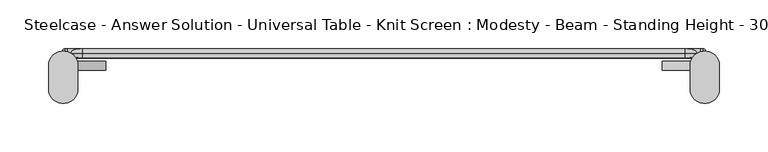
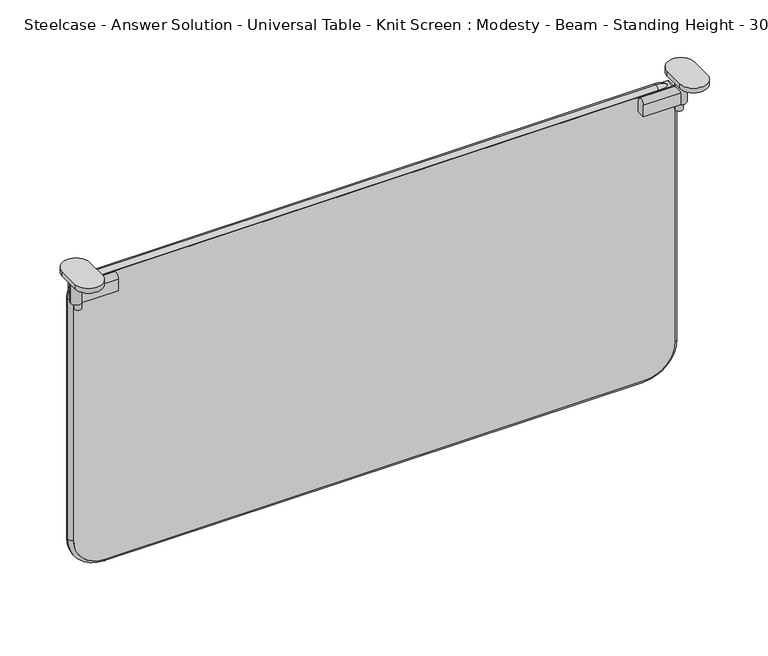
"""IFC4 building model written with IfcOpenShell, lengths in millimetres: furniture geometry, Steelcase - Answer Solution - Universal Table - Knit Screen : Modesty - Beam - Standing Height - 30in."""

import ifcopenshell
import ifcopenshell.guid

model = None  # the IFC model being written
_history = None  # IfcOwnerHistory: only IFC2X3 demands one
_inside = {}  # id of a spatial element -> (the spatial element, [elements in it])
_under = {}  # id of a project, library or spatial element -> (it, [spatial elements below it])
_declared = {}  # id of a project -> (the project, [libraries it declares])
_typed = {}  # id of a type object -> (the type object, [elements of that type])
_made_of = {}  # id of a material, layer set ... -> (it, [elements and type objects made of it])


def new_model(schema):
    """Start an empty IFC model of exactly this schema.

    Asked for "IFC4X3", IfcOpenShell would pick the latest addendum, in which some entities
    have other attributes; the version numbers below select the first issue.
    IFC2X3 requires an IfcOwnerHistory on every rooted entity: one is made here for all.
    """
    global model, _history
    if schema == "IFC4X3":
        model = ifcopenshell.file(schema_version=(4, 3, 0, 0))
    else:
        model = ifcopenshell.file(schema=schema)
    _inside.clear()
    _under.clear()
    _declared.clear()
    _typed.clear()
    _made_of.clear()
    _history = None
    if model.schema == "IFC2X3":
        org = make("IfcOrganization", Name="unknown")
        user = make(
            "IfcPersonAndOrganization",
            ThePerson=make("IfcPerson", FamilyName="unknown"),
            TheOrganization=org,
        )
        app = make(
            "IfcApplication",
            ApplicationDeveloper=org,
            Version="unknown",
            ApplicationFullName="unknown",
            ApplicationIdentifier="unknown",
        )
        _history = make(
            "IfcOwnerHistory",
            OwningUser=user,
            OwningApplication=app,
            ChangeAction="ADDED",
            CreationDate=0,
        )
    return model


def make(cls, **values):
    """One entity of the class cls with the attributes given. An attribute that is None is left unset."""
    return model.create_entity(
        cls, **{name: value for name, value in values.items() if value is not None}
    )


def rooted(cls, **values):
    """An entity with a GlobalId (a new one), such as an element, a storey or a relation."""
    return make(cls, GlobalId=ifcopenshell.guid.new(), OwnerHistory=_history, **values)


def si_unit(unit_type, name, prefix=None):
    """IfcSIUnit, for example si_unit("LENGTHUNIT", "METRE", prefix="MILLI")."""
    return make("IfcSIUnit", UnitType=unit_type, Prefix=prefix, Name=name)


def assignment(units):
    """IfcUnitAssignment: the units of a project."""
    return None if units is None else make("IfcUnitAssignment", Units=units)


def point(xyz):
    """IfcCartesianPoint."""
    return None if xyz is None else make("IfcCartesianPoint", Coordinates=xyz)


def direction(xyz):
    """IfcDirection."""
    return None if xyz is None else make("IfcDirection", DirectionRatios=xyz)


def frame(location, z_axis=None, x_axis=None):
    """IfcAxis2Placement3D, a coordinate frame: its origin and axes. An axis left out is left unset."""
    return make(
        "IfcAxis2Placement3D",
        Location=point(location),
        Axis=direction(z_axis),
        RefDirection=direction(x_axis),
    )


def frame_2d(location, x_axis=None):
    """IfcAxis2Placement2D, a coordinate frame in the plane: its origin and x axis."""
    return make(
        "IfcAxis2Placement2D", Location=point(location), RefDirection=direction(x_axis)
    )


def origin():
    """The frame at (0, 0, 0) with its axes left unset."""
    return frame((0.0, 0.0, 0.0))


def place(relative_to, where):
    """IfcLocalPlacement: puts the frame where relative to a parent placement (None: the world)."""
    return make(
        "IfcLocalPlacement", PlacementRelTo=relative_to, RelativePlacement=where
    )


def context(
    kind, dimensions, precision=None, world=None, true_north=None, identifier=None
):
    """IfcGeometricRepresentationContext, for example the 3D "Model" context."""
    return make(
        "IfcGeometricRepresentationContext",
        ContextIdentifier=identifier,
        ContextType=kind,
        CoordinateSpaceDimension=dimensions,
        Precision=precision,
        WorldCoordinateSystem=world,
        TrueNorth=true_north,
    )


def project(units=None, contexts=None):
    """IfcProject with its units and contexts."""
    return rooted(
        "IfcProject",
        Name="project",
        RepresentationContexts=contexts,
        UnitsInContext=assignment(units),
    )


def spatial(cls, under=None, at=None, **own):
    """A site, building, storey or space (cls), placed at a placement, below another one or the project."""
    s = rooted(cls, ObjectPlacement=at, **own)
    if under is not None:
        _under.setdefault(under.id(), (under, []))[1].append(s)
    return s


def polyline(points):
    """IfcPolyline through the points."""
    return make("IfcPolyline", Points=[point(p) for p in points])


def circle_curve(where, radius):
    """IfcCircle in the frame where."""
    return make("IfcCircle", Position=where, Radius=radius)


def ellipse_curve(where, semi_axis1, semi_axis2):
    """IfcEllipse in the frame where."""
    return make(
        "IfcEllipse", Position=where, SemiAxis1=semi_axis1, SemiAxis2=semi_axis2
    )


def trimmed(basis, trim1, trim2, sense, master):
    """IfcTrimmedCurve: the piece of a basis curve between two trims."""
    return make(
        "IfcTrimmedCurve",
        BasisCurve=basis,
        Trim1=trim1,
        Trim2=trim2,
        SenseAgreement=sense,
        MasterRepresentation=master,
    )


def segment(curve, same_sense, transition):
    """IfcCompositeCurveSegment."""
    return make(
        "IfcCompositeCurveSegment",
        Transition=transition,
        SameSense=same_sense,
        ParentCurve=curve,
    )


def composite_curve(segments, self_intersect=None):
    """IfcCompositeCurve: segments joined end to end."""
    return make("IfcCompositeCurve", Segments=segments, SelfIntersect=self_intersect)


def outline(outer, holes=None, kind="AREA"):
    """IfcArbitraryClosedProfileDef: a profile drawn as a closed curve; with holes, ...WithVoids."""
    if holes is None:
        return make("IfcArbitraryClosedProfileDef", ProfileType=kind, OuterCurve=outer)
    return make(
        "IfcArbitraryProfileDefWithVoids",
        ProfileType=kind,
        OuterCurve=outer,
        InnerCurves=holes,
    )


def extrude(swept, where, along, depth):
    """IfcExtrudedAreaSolid: the profile swept, set in the frame where, extruded along a direction by depth."""
    return make(
        "IfcExtrudedAreaSolid",
        SweptArea=swept,
        Position=where,
        ExtrudedDirection=direction(along),
        Depth=depth,
    )


def shape(context_of_items, identifier, shape_type, items):
    """IfcShapeRepresentation: the items that make up one representation, for example the "Body"."""
    return make(
        "IfcShapeRepresentation",
        ContextOfItems=context_of_items,
        RepresentationIdentifier=identifier,
        RepresentationType=shape_type,
        Items=items,
    )


def source(mapping_origin, context_of_items, identifier, shape_type, items):
    """IfcRepresentationMap: a shape defined once, which mapped items show again and again."""
    return make(
        "IfcRepresentationMap",
        MappingOrigin=mapping_origin,
        MappedRepresentation=shape(context_of_items, identifier, shape_type, items),
    )


def transform(
    local_origin,
    x_axis=None,
    y_axis=None,
    z_axis=None,
    scale=None,
    scale2=None,
    scale3=None,
    uniform=True,
):
    """IfcCartesianTransformationOperator3D, or its non-uniform kind. x_axis, y_axis, z_axis: its Axis1, 2, 3."""
    if uniform:
        return make(
            "IfcCartesianTransformationOperator3D",
            Axis1=direction(x_axis),
            Axis2=direction(y_axis),
            LocalOrigin=point(local_origin),
            Scale=scale,
            Axis3=direction(z_axis),
        )
    return make(
        "IfcCartesianTransformationOperator3DnonUniform",
        Axis1=direction(x_axis),
        Axis2=direction(y_axis),
        LocalOrigin=point(local_origin),
        Scale=scale,
        Axis3=direction(z_axis),
        Scale2=scale2,
        Scale3=scale3,
    )


def mapped(mapping_source, mapping_target):
    """IfcMappedItem: shows the shape of a source again, moved by a transform."""
    return make(
        "IfcMappedItem", MappingSource=mapping_source, MappingTarget=mapping_target
    )


def made_of(thing, what):
    """Note that an element or type object is made of a material, layer set ...; save() writes the relation."""
    if what is not None:
        _made_of.setdefault(what.id(), (what, []))[1].append(thing)
    return thing


def element(
    cls,
    number,
    at=None,
    inside=None,
    cuts=None,
    type_object=None,
    material=None,
    context=None,
    identifier="Body",
    shape_type=None,
    held_by="IfcProductDefinitionShape",
    body=None,
    shapes=None,
    **own,
):
    """One element of the class cls, such as IfcWall. Its Tag is "e" and its number.

    at: its placement. inside: the storey or other place that contains it. cuts: it is an
    opening in that element (IfcRelVoidsElement). A single representation is given by context,
    identifier, shape_type and body (its items); several are given by shapes. held_by: the class
    of the entity that holds the representations. save() writes the other relations.
    """
    e = rooted(cls, Tag="e%d" % number, ObjectPlacement=at, **own)
    if body is not None:
        shapes = [shape(context, identifier, shape_type, body)]
    if shapes is not None:
        e.Representation = make(held_by, Representations=shapes)
    if inside is not None:
        _inside.setdefault(inside.id(), (inside, []))[1].append(e)
    if cuts is not None:
        rooted(
            "IfcRelVoidsElement", RelatingBuildingElement=cuts, RelatedOpeningElement=e
        )
    if type_object is not None:
        _typed.setdefault(type_object.id(), (type_object, []))[1].append(e)
    return made_of(e, material)


def aggregate(whole, parts):
    """IfcRelAggregates: a whole, such as a stair, and the parts it consists of."""
    return rooted("IfcRelAggregates", RelatingObject=whole, RelatedObjects=parts)


def save(model, path):
    """Write the relations noted so far, then the file.

    IfcRelAggregates (storeys below a building ...), IfcRelContainedInSpatialStructure (elements
    in a storey), IfcRelDefinesByType, IfcRelAssociatesMaterial and IfcRelDeclares: one each for
    every whole, place, type object, material and project.
    """
    for whole, parts in _under.values():
        aggregate(whole, parts)
    for where, things in _inside.values():
        rooted(
            "IfcRelContainedInSpatialStructure",
            RelatedElements=things,
            RelatingStructure=where,
        )
    for kind, things in _typed.values():
        rooted("IfcRelDefinesByType", RelatedObjects=things, RelatingType=kind)
    for what, things in _made_of.values():
        rooted("IfcRelAssociatesMaterial", RelatedObjects=things, RelatingMaterial=what)
    for by, libraries in _declared.values():
        rooted("IfcRelDeclares", RelatingContext=by, RelatedDefinitions=libraries)
    model.write(path)


def plane_surface(at):
    """IfcPlane: the flat surface through the origin of the frame at, square to its z axis."""
    return make("IfcPlane", Position=at)


def cylinder_surface(at, radius):
    """IfcCylindricalSurface: all points at the distance radius from the z axis of the frame at."""
    return make("IfcCylindricalSurface", Position=at, Radius=radius)


def revolved_surface(curve, axis_point, axis_direction):
    """IfcSurfaceOfRevolution: the curve turned about the line through axis_point along axis_direction."""
    return make(
        "IfcSurfaceOfRevolution",
        SweptCurve=make("IfcArbitraryOpenProfileDef", ProfileType="CURVE", Curve=curve),
        AxisPosition=make("IfcAxis1Placement", Location=point(axis_point), Axis=direction(axis_direction)),
    )


def advanced_brep(points, edges, surfaces, faces):
    """IfcAdvancedBrep: a solid bounded by faces that lie on surfaces and meet in shared edges.

    An edge is (start, end): straight between two places in points (the first is 0);
    or (start, end, curve); or (start, end, curve, False) where it runs against its curve.
    A face is (place in surfaces, loops), or (place, loops, False) where it looks against
    its surface's normal. A loop lists edges by number (the first is 1), with a minus sign
    where the edge is run from its end to its start. The first loop is the outer one.
    """
    corners = [point(p) for p in points]
    vertices = [make("IfcVertexPoint", VertexGeometry=c) for c in corners]
    made = []
    for start, end, *more in edges:
        made.append(
            make(
                "IfcEdgeCurve",
                EdgeStart=vertices[start],
                EdgeEnd=vertices[end],
                EdgeGeometry=more[0] if more else make("IfcPolyline", Points=[corners[start], corners[end]]),
                SameSense=more[1] if len(more) > 1 else True,
            )
        )
    hull = []
    for where, loops, *sense in faces:
        bounds = []
        for j, loop in enumerate(loops):
            ring = [make("IfcOrientedEdge", EdgeElement=made[abs(k) - 1], Orientation=k > 0) for k in loop]
            bounds.append(
                make(
                    "IfcFaceOuterBound" if j == 0 else "IfcFaceBound",
                    Bound=make("IfcEdgeLoop", EdgeList=ring),
                    Orientation=True,
                )
            )
        hull.append(make("IfcAdvancedFace", Bounds=bounds, FaceSurface=surfaces[where], SameSense=sense[0] if sense else True))
    return make("IfcAdvancedBrep", Outer=make("IfcClosedShell", CfsFaces=hull))


def steelcase_answer_solution_universal_table_knit_screen_e02af814(model_context):
    return source(origin(), model_context, "Body", "SolidModel", [
        extrude(outline(composite_curve([segment(polyline([(-29.128946, 747.6716837), (-29.128946, 761.0329841)]), True, "CONTINUOUS"), segment(trimmed(circle_curve(frame_2d((-24.4350465, 761.0329841)), 4.6938995), [point((-29.128946, 761.0329841))], [point((-19.7411469, 761.0329841))], False, "CARTESIAN"), True, "CONTINUOUS"), segment(polyline([(-19.7411469, 761.0329841), (-19.7411469, 747.6716837), (-29.128946, 747.6716837)]), True, "CONTINUOUS")], self_intersect=False)), frame((664.2167228, 0.0, 0.0), z_axis=(1.0, 0.0, 0.0), x_axis=(0.0, 1.0, 0.0)), (0.0, 0.0, 1.0), 43.5285515),
        extrude(outline(composite_curve([segment(trimmed(circle_curve(frame_2d((705.8143327, -24.4352196)), 3.96875), [point((709.7830827, -24.4352196))], [point((701.8455827, -24.4352196))], False, "CARTESIAN"), True, "CONTINUOUS"), segment(trimmed(circle_curve(frame_2d((705.8143327, -24.4352196)), 3.96875), [point((701.8455827, -24.4352196))], [point((709.7830827, -24.4352196))], False, "CARTESIAN"), True, "CONTINUOUS")], self_intersect=False)), frame((0.0, 0.0, 739.5915626), z_axis=(0.0, 0.0, 1.0), x_axis=(1.0, 0.0, 0.0)), (0.0, 0.0, 1.0), 8.0801211),
        extrude(outline(composite_curve([segment(trimmed(circle_curve(frame_2d((707.7452743, -24.4352196)), 5.8800133), [point((713.6252876, -24.4352196))], [point((701.865261, -24.4352196))], False, "CARTESIAN"), True, "CONTINUOUS"), segment(trimmed(circle_curve(frame_2d((707.7452743, -24.4352196)), 5.8800133), [point((701.865261, -24.4352196))], [point((713.6252876, -24.4352196))], False, "CARTESIAN"), True, "CONTINUOUS")], self_intersect=False)), frame((0.0, 0.0, 747.6716837), z_axis=(0.0, 0.0, 1.0), x_axis=(1.0, 0.0, 0.0)), (0.0, 0.0, 1.0), 34.3007611),
        extrude(outline(composite_curve([segment(polyline([(722.801332, -24.6349615), (722.801332, -48.0866189)]), True, "CONTINUOUS"), segment(trimmed(circle_curve(frame_2d((707.745565, -48.0866189)), 15.0557671), [point((722.801332, -48.0866189))], [point((692.6897979, -48.0866189))], False, "CARTESIAN"), True, "CONTINUOUS"), segment(polyline([(692.6897979, -48.0866189), (692.6897979, -24.6349615)]), True, "CONTINUOUS"), segment(trimmed(circle_curve(frame_2d((707.745565, -24.6349615)), 15.0557671), [point((692.6897979, -24.6349615))], [point((722.801332, -24.6349615))], False, "CARTESIAN"), True, "CONTINUOUS")], self_intersect=False)), frame((0.0, 0.0, 781.9724448), z_axis=(0.0, 0.0, 1.0), x_axis=(1.0, 0.0, 0.0)), (0.0, 0.0, 1.0), 5.4275552),
        extrude(outline(composite_curve([segment(polyline([(-29.128946, 747.6716837), (-29.128946, 761.0329841)]), True, "CONTINUOUS"), segment(trimmed(circle_curve(frame_2d((-24.4350465, 761.0329841)), 4.6938995), [point((-29.128946, 761.0329841))], [point((-19.7411469, 761.0329841))], False, "CARTESIAN"), True, "CONTINUOUS"), segment(polyline([(-19.7411469, 761.0329841), (-19.7411469, 747.6716837), (-29.128946, 747.6716837)]), True, "CONTINUOUS")], self_intersect=False)), frame((47.6108911, 0.0, 0.0), z_axis=(1.0, 0.0, 0.0), x_axis=(0.0, 1.0, 0.0)), (0.0, 0.0, 1.0), 43.5285515),
        extrude(outline(composite_curve([segment(trimmed(circle_curve(frame_2d((49.5418327, -24.4352196)), 3.96875), [point((45.5730827, -24.4352196))], [point((53.5105827, -24.4352196))], False, "CARTESIAN"), True, "CONTINUOUS"), segment(trimmed(circle_curve(frame_2d((49.5418327, -24.4352196)), 3.96875), [point((53.5105827, -24.4352196))], [point((45.5730827, -24.4352196))], False, "CARTESIAN"), True, "CONTINUOUS")], self_intersect=False)), frame((0.0, 0.0, 739.5915626), z_axis=(0.0, 0.0, 1.0), x_axis=(1.0, 0.0, 0.0)), (0.0, 0.0, 1.0), 8.0801211),
        extrude(outline(composite_curve([segment(trimmed(circle_curve(frame_2d((47.6108911, -24.4352196)), 5.8800133), [point((41.7308778, -24.4352196))], [point((53.4909043, -24.4352196))], False, "CARTESIAN"), True, "CONTINUOUS"), segment(trimmed(circle_curve(frame_2d((47.6108911, -24.4352196)), 5.8800133), [point((53.4909043, -24.4352196))], [point((41.7308778, -24.4352196))], False, "CARTESIAN"), True, "CONTINUOUS")], self_intersect=False)), frame((0.0, 0.0, 747.6716837), z_axis=(0.0, 0.0, 1.0), x_axis=(1.0, 0.0, 0.0)), (0.0, 0.0, 1.0), 34.3007611),
        extrude(outline(composite_curve([segment(trimmed(circle_curve(frame_2d((47.6106004, -24.6349615)), 15.0557671), [point((32.5548333, -24.6349615))], [point((62.6663674, -24.6349615))], False, "CARTESIAN"), True, "CONTINUOUS"), segment(polyline([(62.6663674, -24.6349615), (62.6663674, -48.0866189)]), True, "CONTINUOUS"), segment(trimmed(circle_curve(frame_2d((47.6106004, -48.0866189)), 15.0557671), [point((62.6663674, -48.0866189))], [point((32.5548333, -48.0866189))], False, "CARTESIAN"), True, "CONTINUOUS"), segment(polyline([(32.5548333, -48.0866189), (32.5548333, -24.6349615)]), True, "CONTINUOUS")], self_intersect=False)), frame((0.0, 0.0, 781.9724448), z_axis=(0.0, 0.0, 1.0), x_axis=(1.0, 0.0, 0.0)), (0.0, 0.0, 1.0), 5.4275552),
        extrude(outline(composite_curve([segment(trimmed(circle_curve(frame_2d((465.8734529, 672.7969049)), 33.0004615), [point((432.8729913, 672.7969049))], [point((465.8734529, 705.7973664))], False, "CARTESIAN"), True, "CONTINUOUS"), segment(polyline([(465.8734529, 705.7973664), (759.2143507, 705.7973664)]), True, "CONTINUOUS"), segment(trimmed(circle_curve(frame_2d((759.2143507, 702.9924906)), 2.8048758), [point((759.2143507, 705.7973664))], [point((762.0192266, 702.9924906))], False, "CARTESIAN"), True, "CONTINUOUS"), segment(polyline([(762.0192266, 702.9924906), (762.0192266, 51.8743664)]), True, "CONTINUOUS"), segment(trimmed(circle_curve(frame_2d((759.7036591, 51.8743664)), 2.3155675), [point((762.0192266, 51.8743664))], [point((759.7036591, 49.5587989))], False, "CARTESIAN"), True, "CONTINUOUS"), segment(polyline([(759.7036591, 49.5587989), (466.7900738, 49.5587989)]), True, "CONTINUOUS"), segment(trimmed(circle_curve(frame_2d((466.7900738, 83.4758814)), 33.9170825), [point((466.7900738, 49.5587989))], [point((432.8729913, 83.4758814))], False, "CARTESIAN"), True, "CONTINUOUS"), segment(polyline([(432.8729913, 83.4758814), (432.8729913, 672.7969049)]), True, "CONTINUOUS")], self_intersect=False)), frame((0.0, -16.5783031, 0.0), z_axis=(0.0, 1.0, 0.0), x_axis=(0.0, 0.0, 1.0)), (0.0, 0.0, 1.0), 9.6878455),
        advanced_brep(
        [(45.5730839, -11.7343804, 744.5906591), (66.9873664, -11.7343804, 766.0049416), (66.9873664, -6.8904577, 762.0192266), (49.5587989, -6.8904577, 744.5906591), (49.5587989, -16.5783031, 744.5906591), (66.9873664, -16.5783031, 762.0192266), (49.5587989, -6.8904577, 466.7900738), (45.5730839, -11.7343804, 466.7900738), (49.5587989, -16.5783031, 466.7900738), (83.4758814, -11.7343804, 428.8872763), (83.4758814, -6.8904577, 432.8729913), (83.4758814, -16.5783031, 432.8729913), (672.7969049, -6.8904577, 432.8729913), (672.7969049, -11.7343804, 428.8872763), (672.7969049, -16.5783031, 432.8729913), (709.7830815, -11.7343804, 465.8734529), (705.7973664, -6.8904577, 465.8734529), (705.7973664, -16.5783031, 465.8734529), (705.7973664, -6.8904577, 744.1013507), (709.7830815, -11.7343804, 744.1013507), (705.7973664, -16.5783031, 744.1013507), (687.8794906, -11.7343804, 766.0049416), (687.8794906, -6.8904577, 762.0192266), (687.8794906, -16.5783031, 762.0192266)],
        [
            (0, 1, circle_curve(frame((66.9873664, -11.7343804, 744.5906591), z_axis=(0.0, 1.0, 0.0), x_axis=(0.0, 0.0, 1.0)), 21.4142825)),
            (1, 2, circle_curve(frame((66.9873664, -11.7343804, 761.0686238), z_axis=(-1.0, 0.0, 0.0), x_axis=(0.0, 0.0, 1.0)), 4.9363178)),
            (2, 3, circle_curve(frame((66.9873664, -6.8904577, 744.5906591), z_axis=(0.0, -1.0, 0.0), x_axis=(0.0, 0.0, 1.0)), 17.4285675)),
            (3, 0, circle_curve(frame((50.5094016, -11.7343804, 744.5906591), z_axis=(0.0, 0.0, 1.0), x_axis=(-1.0, 0.0, 0.0)), 4.9363178)),
            (4, 5, circle_curve(frame((66.9873664, -16.5783031, 744.5906591), z_axis=(0.0, 1.0, 0.0), x_axis=(0.0, 0.0, 1.0)), 17.4285675)),
            (5, 1, circle_curve(frame((66.9873664, -11.7343804, 761.0686238), z_axis=(-1.0, 0.0, 0.0), x_axis=(0.0, 0.0, 1.0)), 4.9363178)),
            (0, 4, circle_curve(frame((50.5094016, -11.7343804, 744.5906591), z_axis=(0.0, 0.0, 1.0), x_axis=(-1.0, 0.0, 0.0)), 4.9363178)),
            (2, 5),
            (4, 3),
            (3, 6),
            (6, 7, circle_curve(frame((50.5094016, -11.7343804, 466.7900738), z_axis=(0.0, 0.0, 1.0), x_axis=(-1.0, 0.0, 0.0)), 4.9363178)),
            (7, 0),
            (7, 8, circle_curve(frame((50.5094016, -11.7343804, 466.7900738), z_axis=(0.0, 0.0, 1.0), x_axis=(-1.0, 0.0, 0.0)), 4.9363178)),
            (8, 4),
            (8, 6),
            (9, 7, circle_curve(frame((83.4758814, -11.7343804, 466.7900738), z_axis=(0.0, 1.0, 0.0), x_axis=(-1.0, 0.0, 0.0)), 37.9027975)),
            (6, 10, circle_curve(frame((83.4758814, -6.8904577, 466.7900738), z_axis=(0.0, -1.0, 0.0), x_axis=(-1.0, 0.0, 0.0)), 33.9170825)),
            (10, 9, circle_curve(frame((83.4758814, -11.7343804, 433.823594), z_axis=(-1.0, 0.0, 0.0), x_axis=(0.0, 0.0, -1.0)), 4.9363178)),
            (11, 8, circle_curve(frame((83.4758814, -16.5783031, 466.7900738), z_axis=(0.0, 1.0, 0.0), x_axis=(-1.0, 0.0, 0.0)), 33.9170825)),
            (9, 11, circle_curve(frame((83.4758814, -11.7343804, 433.823594), z_axis=(-1.0, 0.0, 0.0), x_axis=(0.0, 0.0, -1.0)), 4.9363178)),
            (11, 10),
            (10, 12),
            (12, 13, circle_curve(frame((672.7969049, -11.7343804, 433.823594), z_axis=(-1.0, 0.0, 0.0), x_axis=(0.0, 0.0, -1.0)), 4.9363178)),
            (13, 9),
            (13, 14, circle_curve(frame((672.7969049, -11.7343804, 433.823594), z_axis=(-1.0, 0.0, 0.0), x_axis=(0.0, 0.0, -1.0)), 4.9363178)),
            (14, 11),
            (14, 12),
            (15, 13, circle_curve(frame((672.7969049, -11.7343804, 465.8734529), z_axis=(0.0, 1.0, 0.0), x_axis=(0.0, 0.0, -1.0)), 36.9861766)),
            (12, 16, circle_curve(frame((672.7969049, -6.8904577, 465.8734529), z_axis=(0.0, -1.0, 0.0), x_axis=(0.0, 0.0, -1.0)), 33.0004615)),
            (16, 15, circle_curve(frame((704.8467637, -11.7343804, 465.8734529), z_axis=(0.0, 0.0, -1.0), x_axis=(1.0, 0.0, 0.0)), 4.9363178)),
            (17, 14, circle_curve(frame((672.7969049, -16.5783031, 465.8734529), z_axis=(0.0, 1.0, 0.0), x_axis=(0.0, 0.0, -1.0)), 33.0004615)),
            (15, 17, circle_curve(frame((704.8467637, -11.7343804, 465.8734529), z_axis=(0.0, 0.0, -1.0), x_axis=(1.0, 0.0, 0.0)), 4.9363178)),
            (17, 16),
            (16, 18),
            (18, 19, circle_curve(frame((704.8467637, -11.7343804, 744.1013507), z_axis=(0.0, 0.0, -1.0), x_axis=(1.0, 0.0, 0.0)), 4.9363178)),
            (19, 15),
            (19, 20, circle_curve(frame((704.8467637, -11.7343804, 744.1013507), z_axis=(0.0, 0.0, -1.0), x_axis=(1.0, 0.0, 0.0)), 4.9363178)),
            (20, 17),
            (20, 18),
            (21, 19, circle_curve(frame((687.8794906, -11.7343804, 744.1013507), z_axis=(0.0, 1.0, 0.0), x_axis=(1.0, 0.0, 0.0)), 21.9035909)),
            (18, 22, circle_curve(frame((687.8794906, -6.8904577, 744.1013507), z_axis=(0.0, -1.0, 0.0), x_axis=(1.0, 0.0, 0.0)), 17.9178758)),
            (22, 21, circle_curve(frame((687.8794906, -11.7343804, 761.0686238), z_axis=(1.0, 0.0, 0.0), x_axis=(0.0, 0.0, 1.0)), 4.9363178)),
            (23, 20, circle_curve(frame((687.8794906, -16.5783031, 744.1013507), z_axis=(0.0, 1.0, 0.0), x_axis=(1.0, 0.0, 0.0)), 17.9178758)),
            (21, 23, circle_curve(frame((687.8794906, -11.7343804, 761.0686238), z_axis=(1.0, 0.0, 0.0), x_axis=(0.0, 0.0, 1.0)), 4.9363178)),
            (23, 22),
            (22, 2),
            (1, 21),
            (5, 23),
        ],
        [
            revolved_surface(trimmed(ellipse_curve(frame((66.9873664, -11.7343804, 761.0686238), z_axis=(1.0, 0.0, 0.0), x_axis=(0.0, 0.0, 1.0)), 4.9363178, 4.9363178), [point((66.9873664, -6.8904577, 762.0192266))], [point((66.9873664, -11.7343804, 766.0049416))], True, "CARTESIAN"), (66.9873664, -11.7343804, 744.5906591), (0.0, -1.0, 0.0)),
            revolved_surface(trimmed(ellipse_curve(frame((66.9873664, -11.7343804, 761.0686238), z_axis=(1.0, 0.0, 0.0), x_axis=(0.0, 0.0, 1.0)), 4.9363178, 4.9363178), [point((66.9873664, -11.7343804, 766.0049416))], [point((66.9873664, -16.5783031, 762.0192266))], True, "CARTESIAN"), (66.9873664, -11.7343804, 744.5906591), (0.0, -1.0, 0.0)),
            revolved_surface(polyline([(66.9873664, -16.5783031, 762.0192266), (66.9873664, -6.8904577, 762.0192266)]), (66.9873664, -11.7343804, 744.5906591), (0.0, -1.0, 0.0)),
            cylinder_surface(frame((50.5094016, -11.7343804, 744.5906591), z_axis=(0.0, 0.0, 1.0), x_axis=(-1.0, 0.0, 0.0)), 4.9363178),
            plane_surface(frame((49.5587989, -16.5783031, 744.5906591), z_axis=(1.0, 0.0, 0.0), x_axis=(0.0, 0.0, -1.0))),
            revolved_surface(trimmed(ellipse_curve(frame((50.5094016, -11.7343804, 466.7900738), z_axis=(0.0, 0.0, 1.0), x_axis=(-1.0, 0.0, 0.0)), 4.9363178, 4.9363178), [point((49.5587989, -6.8904577, 466.7900738))], [point((45.5730839, -11.7343804, 466.7900738))], True, "CARTESIAN"), (83.4758814, -11.7343804, 466.7900738), (0.0, -1.0, 0.0)),
            revolved_surface(trimmed(ellipse_curve(frame((50.5094016, -11.7343804, 466.7900738), z_axis=(0.0, 0.0, 1.0), x_axis=(-1.0, 0.0, 0.0)), 4.9363178, 4.9363178), [point((45.5730839, -11.7343804, 466.7900738))], [point((49.5587989, -16.5783031, 466.7900738))], True, "CARTESIAN"), (83.4758814, -11.7343804, 466.7900738), (0.0, -1.0, 0.0)),
            revolved_surface(polyline([(49.558798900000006, -16.5783031, 466.7900738), (49.558798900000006, -6.8904577, 466.7900738)]), (83.4758814, -11.7343804, 466.7900738), (0.0, -1.0, 0.0)),
            cylinder_surface(frame((83.4758814, -11.7343804, 433.823594), z_axis=(-1.0, 0.0, 0.0), x_axis=(0.0, 0.0, -1.0)), 4.9363178),
            plane_surface(frame((83.4758814, -16.5783031, 432.8729913), z_axis=(0.0, 0.0, 1.0), x_axis=(1.0, 0.0, 0.0))),
            revolved_surface(trimmed(ellipse_curve(frame((672.7969049, -11.7343804, 433.823594), z_axis=(-1.0, 0.0, 0.0), x_axis=(0.0, 0.0, -1.0)), 4.9363178, 4.9363178), [point((672.7969049, -6.8904577, 432.8729913))], [point((672.7969049, -11.7343804, 428.8872763))], True, "CARTESIAN"), (672.7969049, -11.7343804, 465.8734529), (0.0, -1.0, 0.0)),
            revolved_surface(trimmed(ellipse_curve(frame((672.7969049, -11.7343804, 433.823594), z_axis=(-1.0, 0.0, 0.0), x_axis=(0.0, 0.0, -1.0)), 4.9363178, 4.9363178), [point((672.7969049, -11.7343804, 428.8872763))], [point((672.7969049, -16.5783031, 432.8729913))], True, "CARTESIAN"), (672.7969049, -11.7343804, 465.8734529), (0.0, -1.0, 0.0)),
            revolved_surface(polyline([(672.7969049, -16.5783031, 432.87299140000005), (672.7969049, -6.8904577, 432.87299140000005)]), (672.7969049, -11.7343804, 465.8734529), (0.0, -1.0, 0.0)),
            cylinder_surface(frame((704.8467637, -11.7343804, 465.8734529), z_axis=(0.0, 0.0, -1.0), x_axis=(1.0, 0.0, 0.0)), 4.9363178),
            plane_surface(frame((705.7973664, -16.5783031, 465.8734529), z_axis=(-1.0, 0.0, 0.0), x_axis=(0.0, 0.0, 1.0))),
            revolved_surface(trimmed(ellipse_curve(frame((704.8467637, -11.7343804, 744.1013507), z_axis=(0.0, 0.0, -1.0), x_axis=(1.0, 0.0, 0.0)), 4.9363178, 4.9363178), [point((705.7973664, -6.8904577, 744.1013507))], [point((709.7830815, -11.7343804, 744.1013507))], True, "CARTESIAN"), (687.8794906, -11.7343804, 744.1013507), (0.0, -1.0, 0.0)),
            revolved_surface(trimmed(ellipse_curve(frame((704.8467637, -11.7343804, 744.1013507), z_axis=(0.0, 0.0, -1.0), x_axis=(1.0, 0.0, 0.0)), 4.9363178, 4.9363178), [point((709.7830815, -11.7343804, 744.1013507))], [point((705.7973664, -16.5783031, 744.1013507))], True, "CARTESIAN"), (687.8794906, -11.7343804, 744.1013507), (0.0, -1.0, 0.0)),
            revolved_surface(polyline([(705.7973664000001, -16.5783031, 744.1013507), (705.7973664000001, -6.8904577, 744.1013507)]), (687.8794906, -11.7343804, 744.1013507), (0.0, -1.0, 0.0)),
            cylinder_surface(frame((687.8794906, -11.7343804, 761.0686238), z_axis=(1.0, 0.0, 0.0), x_axis=(0.0, 0.0, 1.0)), 4.9363178),
            plane_surface(frame((687.8794906, -16.5783031, 762.0192266), z_axis=(0.0, 0.0, -1.0), x_axis=(-1.0, 0.0, 0.0))),
        ],
        [
            (0, [[1, 2, 3, 4]]),
            (1, [[5, 6, -1, 7]]),
            (2, [[-3, 8, -5, 9]]),
            (3, [[-4, 10, 11, 12]]),
            (3, [[-7, -12, 13, 14]]),
            (4, [[-9, -14, 15, -10]]),
            (5, [[16, -11, 17, 18]]),
            (6, [[19, -13, -16, 20]]),
            (7, [[-17, -15, -19, 21]]),
            (8, [[-18, 22, 23, 24]]),
            (8, [[-20, -24, 25, 26]]),
            (9, [[-21, -26, 27, -22]]),
            (10, [[28, -23, 29, 30]]),
            (11, [[31, -25, -28, 32]]),
            (12, [[-29, -27, -31, 33]]),
            (13, [[-30, 34, 35, 36]]),
            (13, [[-32, -36, 37, 38]]),
            (14, [[-33, -38, 39, -34]]),
            (15, [[40, -35, 41, 42]]),
            (16, [[43, -37, -40, 44]]),
            (17, [[-41, -39, -43, 45]]),
            (18, [[-42, 46, -2, 47]]),
            (18, [[-44, -47, -6, 48]]),
            (19, [[-45, -48, -8, -46]]),
        ],
    ),
    ])


if __name__ == "__main__":
    model = new_model("IFC4")
    model_context = context("Model", 3, world=origin())
    ifc_project = project(units=[si_unit("LENGTHUNIT", "METRE", prefix="MILLI")], contexts=[model_context])
    site = spatial("IfcSite", under=ifc_project)
    building = spatial("IfcBuilding", under=site)
    placement = place(None, origin())
    steelcase_answer_solution_universal_table_knit_screen_shape = steelcase_answer_solution_universal_table_knit_screen_e02af814(model_context)
    element("IfcFurniture", 1, ObjectType="Steelcase - Answer Solution - Universal Table - Knit Screen : Modesty - Beam - Standing Height - 30in", at=placement, inside=building, context=model_context, shape_type="MappedRepresentation", body=[
        mapped(steelcase_answer_solution_universal_table_knit_screen_shape, transform((0.0, 0.0, 0.0), x_axis=(1.0, 0.0, 0.0), y_axis=(0.0, 1.0, 0.0), z_axis=(0.0, 0.0, 1.0))),
    ])
    save(model, "model.ifc")
